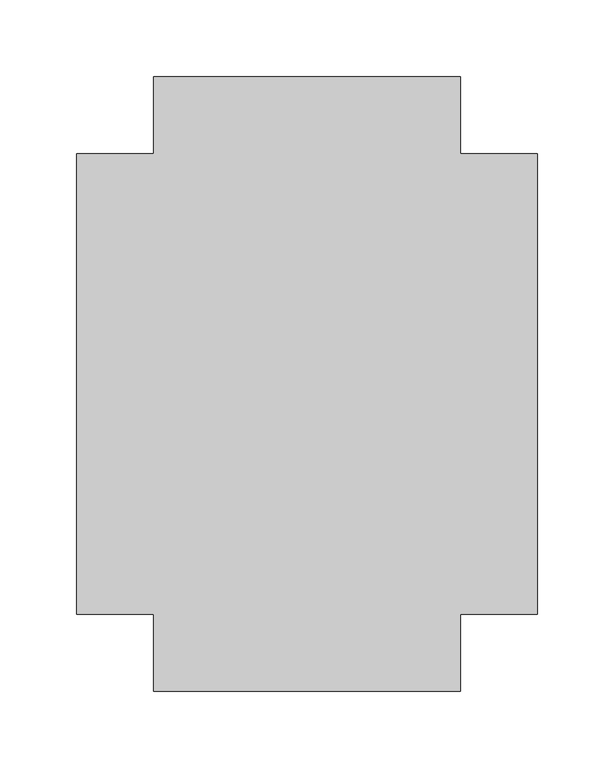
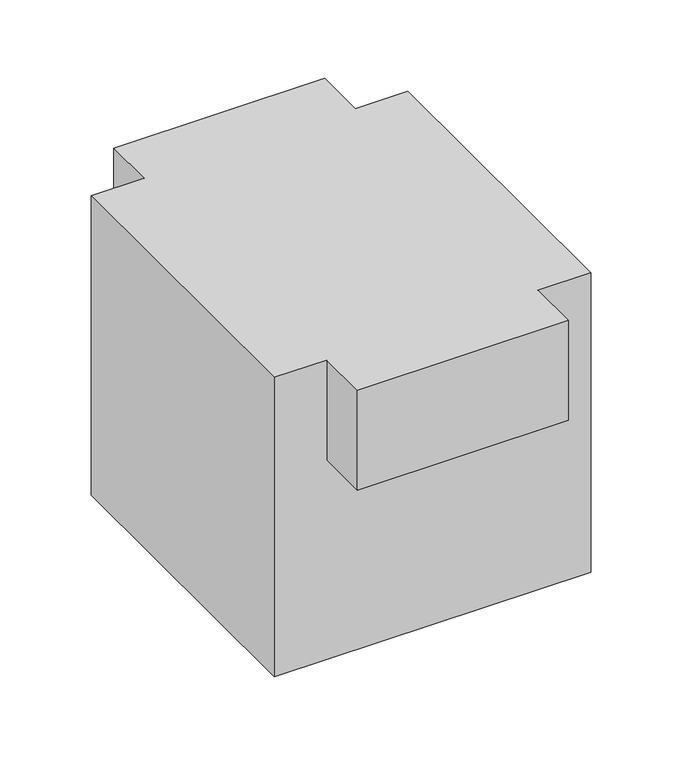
"""IFC4 building model written with IfcOpenShell, lengths in millimetres: duct fitting geometry, BL_КрестовинаВоздуховодов_Прямоугольная : BL_КрестовинаВоздуховодов_Прямоугольная."""

from ifc_helpers import new_model, si_unit, origin, place, context, project, spatial, faceted_brep, source, transform, mapped, element, save


def duct_fitting_2bfe9eff(model_context):
    return source(origin(), model_context, "Body", "Brep", [
        faceted_brep([(-150.0, 150.0, 150.0), (-150.0, 150.0, -150.0), (-150.0, -150.0, -150.0), (-150.0, -150.0, 150.0), (-100.0, 150.0, 150.0), (-100.0, 150.0, -50.0), (100.0, 150.0, -50.0), (100.0, 150.0, 150.0), (150.0, 150.0, 150.0), (150.0, 150.0, -150.0), (150.0, -150.0, -150.0), (150.0, -150.0, 150.0), (100.0, -150.0, 150.0), (100.0, -150.0, 50.0), (-100.0, -150.0, 50.0), (-100.0, -150.0, 150.0), (-100.0, -200.0, 150.0), (100.0, -200.0, 150.0), (100.0, 200.0, 150.0), (-100.0, 200.0, 150.0), (-100.0, -200.0, 50.0), (100.0, -200.0, 50.0), (100.0, 200.0, -50.0), (-100.0, 200.0, -50.0)], [[[0, 1, 2, 3]], [[1, 0, 4, 5, 6, 7, 8, 9]], [[2, 1, 9, 10]], [[3, 2, 10, 11, 12, 13, 14, 15]], [[0, 3, 15, 16, 17, 12, 11, 8, 7, 18, 19, 4]], [[8, 11, 10, 9]], [[16, 20, 21, 17]], [[20, 16, 15, 14]], [[21, 20, 14, 13]], [[17, 21, 13, 12]], [[18, 22, 23, 19]], [[22, 18, 7, 6]], [[23, 22, 6, 5]], [[19, 23, 5, 4]]]),
    ])


if __name__ == "__main__":
    model = new_model("IFC4")
    model_context = context("Model", 3, world=origin())
    ifc_project = project(units=[si_unit("LENGTHUNIT", "METRE", prefix="MILLI")], contexts=[model_context])
    site = spatial("IfcSite", under=ifc_project)
    building = spatial("IfcBuilding", under=site)
    placement = place(None, origin())
    duct_fitting_shape = duct_fitting_2bfe9eff(model_context)
    element("IfcDuctFitting", 1, ObjectType="BL_КрестовинаВоздуховодов_Прямоугольная : BL_КрестовинаВоздуховодов_Прямоугольная", at=placement, inside=building, context=model_context, shape_type="MappedRepresentation", body=[
        mapped(duct_fitting_shape, transform((0.0, 0.0, 0.0), x_axis=(1.0, 0.0, 0.0), y_axis=(0.0, 1.0, 0.0), z_axis=(0.0, 0.0, 1.0))),
    ])
    save(model, "model.ifc")
